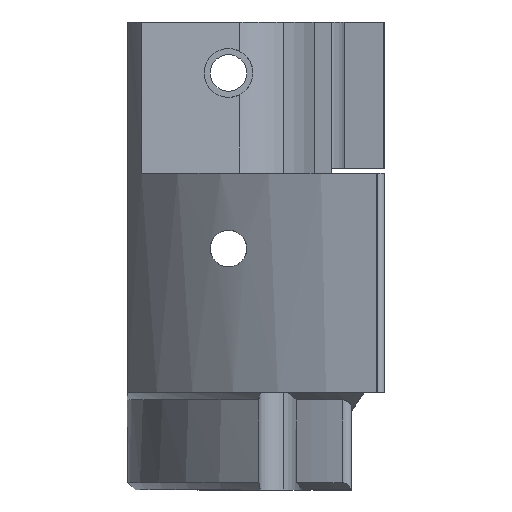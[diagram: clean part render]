
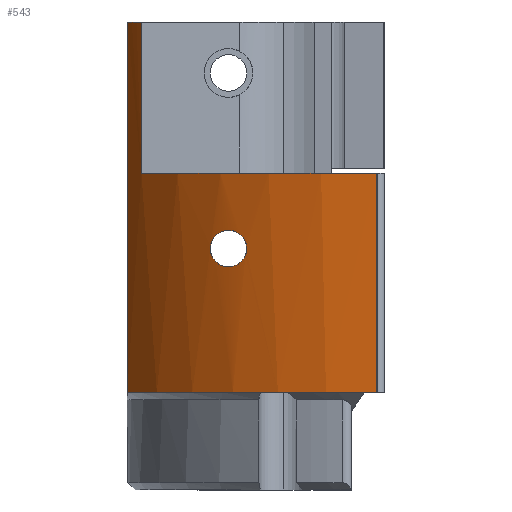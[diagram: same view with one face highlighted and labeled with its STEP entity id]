
A CAD part, left-side view. The second image highlights one B-rep face of the part: STEP entity #543.
In plain terms, the highlighted cylindrical face has radius 14.3 mm (diameter 28.6 mm), a partial arc.
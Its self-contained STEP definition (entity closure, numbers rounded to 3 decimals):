
#28 = ORIENTED_EDGE ( 'NONE', *, *, #1807, .T. ) ;
#93 = CARTESIAN_POINT ( 'NONE',  ( -11.284, 8.785, 5.687 ) ) ;
#104 = FACE_OUTER_BOUND ( 'NONE', #1022, .T. ) ;
#119 = DIRECTION ( 'NONE',  ( 0., 0., -1. ) ) ;
#140 = CARTESIAN_POINT ( 'NONE',  ( -11.75, 8.15, 6.85 ) ) ;
#157 = CARTESIAN_POINT ( 'NONE',  ( -12.237, 7.4, 5.995 ) ) ;
#217 = CARTESIAN_POINT ( 'NONE',  ( -7.294, 12.3, 42.826 ) ) ;
#250 = DIRECTION ( 'NONE',  ( 0., 0., -1. ) ) ;
#260 = CARTESIAN_POINT ( 'NONE',  ( -8.195, 11.719, 0.968 ) ) ;
#269 = DIRECTION ( 'NONE',  ( 1., 0., 0. ) ) ;
#302 = CARTESIAN_POINT ( 'NONE',  ( -11.33, 8.725, 6.591 ) ) ;
#360 = CARTESIAN_POINT ( 'NONE',  ( -12.13, 7.574, 6.591 ) ) ;
#399 = CARTESIAN_POINT ( 'NONE',  ( -14.147, 2.088, 42.826 ) ) ;
#415 = AXIS2_PLACEMENT_3D ( 'NONE', #1960, #2370, #269 ) ;
#435 = EDGE_LOOP ( 'NONE', ( #1289, #560 ) ) ;
#501 = CARTESIAN_POINT ( 'NONE',  ( -11.5, 8.5, 5.43 ) ) ;
#524 = CARTESIAN_POINT ( 'NONE',  ( -11.75, 8.15, 5.35 ) ) ;
#543 = ADVANCED_FACE ( 'NONE', ( #1990, #104 ), #1471, .T. ) ;
#560 = ORIENTED_EDGE ( 'NONE', *, *, #1928, .T. ) ;
#589 = VERTEX_POINT ( 'NONE', #1413 ) ;
#598 = DIRECTION ( 'NONE',  ( 0., 0., 1. ) ) ;
#625 = CARTESIAN_POINT ( 'NONE',  ( -14.147, 2.088, 9.19 ) ) ;
#659 = CARTESIAN_POINT ( 'NONE',  ( -11.193, 8.9, 5.987 ) ) ;
#772 = CIRCLE ( 'NONE', #415, 14.3 ) ;
#797 = B_SPLINE_CURVE_WITH_KNOTS ( 'NONE', 3,
 ( #140, #1328, #2086, #2111, #928, #360, #900, #1132, #1113, #157, #1715, #2299, #2289, #1505, #1707, #524 ),
 .UNSPECIFIED., .F., .F.,
 ( 4, 2, 2, 2, 2, 2, 2, 4 ),
 ( 0.003, 0.003, 0.003, 0.004, 0.004, 0.004, 0.005, 0.005 ),
 .UNSPECIFIED. ) ;
#817 = VECTOR ( 'NONE', #598, 1000. ) ;
#826 = DIRECTION ( 'NONE',  ( -1., 0., 0. ) ) ;
#831 = ORIENTED_EDGE ( 'NONE', *, *, #2341, .T. ) ;
#856 = CARTESIAN_POINT ( 'NONE',  ( -11.492, 8.511, 6.785 ) ) ;
#884 = CARTESIAN_POINT ( 'NONE',  ( -11.44, 8.58, 5.478 ) ) ;
#900 = CARTESIAN_POINT ( 'NONE',  ( -12.168, 7.512, 6.507 ) ) ;
#903 = CARTESIAN_POINT ( 'NONE',  ( -14.147, 2.088, 0.2 ) ) ;
#928 = CARTESIAN_POINT ( 'NONE',  ( -12.038, 7.719, 6.721 ) ) ;
#940 = VECTOR ( 'NONE', #2002, 1000. ) ;
#1011 = CARTESIAN_POINT ( 'NONE',  ( -11.75, 8.15, 6.85 ) ) ;
#1022 = EDGE_LOOP ( 'NONE', ( #831, #1516, #28, #1586, #1970, #2304 ) ) ;
#1061 = DIRECTION ( 'NONE',  ( 1., 0., 0. ) ) ;
#1065 = DIRECTION ( 'NONE',  ( -1., 0., 0. ) ) ;
#1113 = CARTESIAN_POINT ( 'NONE',  ( -12.236, 7.4, 6.211 ) ) ;
#1132 = CARTESIAN_POINT ( 'NONE',  ( -12.221, 7.425, 6.319 ) ) ;
#1173 = VERTEX_POINT ( 'NONE', #1011 ) ;
#1179 = VERTEX_POINT ( 'NONE', #625 ) ;
#1183 = LINE ( 'NONE', #217, #1453 ) ;
#1246 = CARTESIAN_POINT ( 'NONE',  ( -11.332, 8.722, 5.606 ) ) ;
#1255 = CARTESIAN_POINT ( 'NONE',  ( -11.282, 8.787, 6.509 ) ) ;
#1266 = CARTESIAN_POINT ( 'NONE',  ( -11.75, 8.15, 5.35 ) ) ;
#1268 = EDGE_CURVE ( 'NONE', #2529, #589, #1269, .T. ) ;
#1269 = CIRCLE ( 'NONE', #1736, 14.3 ) ;
#1271 = LINE ( 'NONE', #260, #940 ) ;
#1289 = ORIENTED_EDGE ( 'NONE', *, *, #2463, .T. ) ;
#1328 = CARTESIAN_POINT ( 'NONE',  ( -11.811, 8.062, 6.85 ) ) ;
#1380 = VERTEX_POINT ( 'NONE', #903 ) ;
#1390 = CARTESIAN_POINT ( 'NONE',  ( -11.75, 8.15, 5.35 ) ) ;
#1413 = CARTESIAN_POINT ( 'NONE',  ( -7.294, 12.3, 15.39 ) ) ;
#1439 = CARTESIAN_POINT ( 'NONE',  ( -11.625, 8.331, 6.85 ) ) ;
#1453 = VECTOR ( 'NONE', #2371, 1000. ) ;
#1463 = LINE ( 'NONE', #399, #817 ) ;
#1468 = CARTESIAN_POINT ( 'NONE',  ( -11.624, 8.329, 5.366 ) ) ;
#1471 = CYLINDRICAL_SURFACE ( 'NONE', #1574, 14.3 ) ;
#1472 = DIRECTION ( 'NONE',  ( 0., 0., -1. ) ) ;
#1487 = CIRCLE ( 'NONE', #2457, 14.3 ) ;
#1505 = CARTESIAN_POINT ( 'NONE',  ( -11.994, 7.789, 5.414 ) ) ;
#1516 = ORIENTED_EDGE ( 'NONE', *, *, #1695, .T. ) ;
#1519 = VERTEX_POINT ( 'NONE', #1718 ) ;
#1548 = CARTESIAN_POINT ( 'NONE',  ( 0., 0., 42.826 ) ) ;
#1574 = AXIS2_PLACEMENT_3D ( 'NONE', #1548, #250, #826 ) ;
#1577 = VERTEX_POINT ( 'NONE', #1390 ) ;
#1586 = ORIENTED_EDGE ( 'NONE', *, *, #1710, .T. ) ;
#1637 = B_SPLINE_CURVE_WITH_KNOTS ( 'NONE', 3,
 ( #1266, #1850, #1468, #501, #884, #1246, #93, #2444, #659, #1865, #2035, #1255, #302, #856, #1439, #1660 ),
 .UNSPECIFIED., .F., .F.,
 ( 4, 2, 2, 2, 2, 2, 2, 4 ),
 ( 0., 0., 0.001, 0.001, 0.001, 0.002, 0.002, 0.003 ),
 .UNSPECIFIED. ) ;
#1660 = CARTESIAN_POINT ( 'NONE',  ( -11.75, 8.15, 6.85 ) ) ;
#1695 = EDGE_CURVE ( 'NONE', #1380, #1179, #1463, .T. ) ;
#1707 = CARTESIAN_POINT ( 'NONE',  ( -11.874, 7.972, 5.35 ) ) ;
#1710 = EDGE_CURVE ( 'NONE', #1519, #2529, #1271, .T. ) ;
#1715 = CARTESIAN_POINT ( 'NONE',  ( -12.222, 7.423, 5.886 ) ) ;
#1718 = CARTESIAN_POINT ( 'NONE',  ( -8.195, 11.719, 9.19 ) ) ;
#1736 = AXIS2_PLACEMENT_3D ( 'NONE', #2245, #1472, #1065 ) ;
#1807 = EDGE_CURVE ( 'NONE', #1179, #1519, #1487, .T. ) ;
#1850 = CARTESIAN_POINT ( 'NONE',  ( -11.687, 8.241, 5.35 ) ) ;
#1865 = CARTESIAN_POINT ( 'NONE',  ( -11.192, 8.9, 6.207 ) ) ;
#1928 = EDGE_CURVE ( 'NONE', #1173, #1577, #797, .T. ) ;
#1960 = CARTESIAN_POINT ( 'NONE',  ( 0., 0., 0.2 ) ) ;
#1970 = ORIENTED_EDGE ( 'NONE', *, *, #1268, .T. ) ;
#1990 = FACE_BOUND ( 'NONE', #435, .T. ) ;
#2002 = DIRECTION ( 'NONE',  ( 0., 0., 1. ) ) ;
#2035 = CARTESIAN_POINT ( 'NONE',  ( -11.212, 8.876, 6.317 ) ) ;
#2055 = CARTESIAN_POINT ( 'NONE',  ( 0., 0., 9.19 ) ) ;
#2086 = CARTESIAN_POINT ( 'NONE',  ( -11.872, 7.972, 6.834 ) ) ;
#2111 = CARTESIAN_POINT ( 'NONE',  ( -11.985, 7.802, 6.77 ) ) ;
#2189 = EDGE_CURVE ( 'NONE', #589, #2232, #1183, .T. ) ;
#2232 = VERTEX_POINT ( 'NONE', #2387 ) ;
#2245 = CARTESIAN_POINT ( 'NONE',  ( 0., 0., 15.39 ) ) ;
#2280 = CARTESIAN_POINT ( 'NONE',  ( -8.195, 11.719, 15.39 ) ) ;
#2289 = CARTESIAN_POINT ( 'NONE',  ( -12.131, 7.572, 5.612 ) ) ;
#2299 = CARTESIAN_POINT ( 'NONE',  ( -12.169, 7.51, 5.695 ) ) ;
#2304 = ORIENTED_EDGE ( 'NONE', *, *, #2189, .T. ) ;
#2341 = EDGE_CURVE ( 'NONE', #2232, #1380, #772, .T. ) ;
#2370 = DIRECTION ( 'NONE',  ( 0., 0., 1. ) ) ;
#2371 = DIRECTION ( 'NONE',  ( 0., 0., -1. ) ) ;
#2387 = CARTESIAN_POINT ( 'NONE',  ( -7.294, 12.3, 0.2 ) ) ;
#2444 = CARTESIAN_POINT ( 'NONE',  ( -11.214, 8.874, 5.878 ) ) ;
#2457 = AXIS2_PLACEMENT_3D ( 'NONE', #2055, #119, #1061 ) ;
#2463 = EDGE_CURVE ( 'NONE', #1577, #1173, #1637, .T. ) ;
#2529 = VERTEX_POINT ( 'NONE', #2280 ) ;
